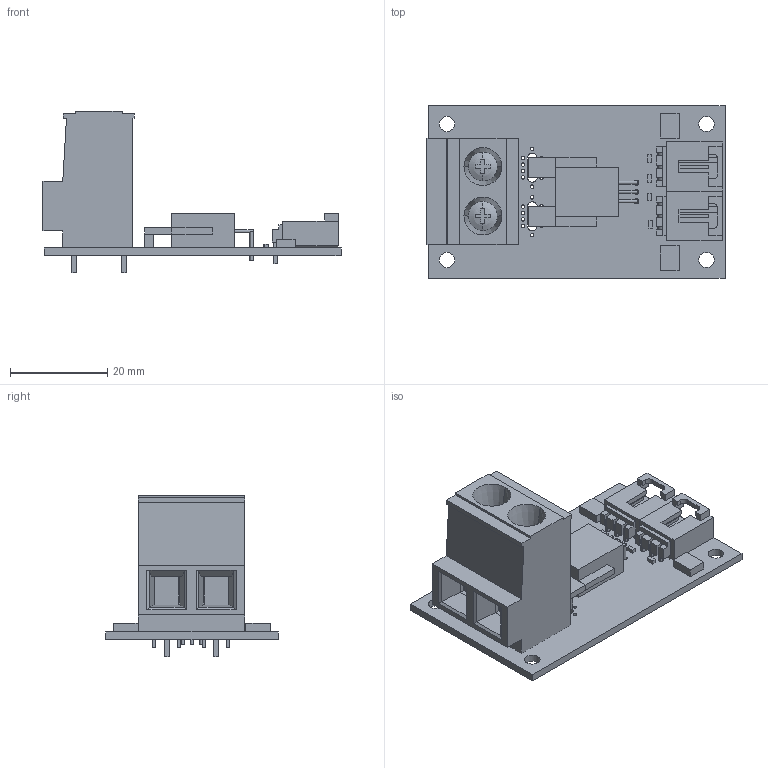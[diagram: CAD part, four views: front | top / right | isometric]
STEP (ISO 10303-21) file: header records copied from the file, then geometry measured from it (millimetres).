
FILE_DESCRIPTION(('Open CASCADE Model'),'2;1');
FILE_NAME('Open CASCADE Shape Model','2010-10-28T09:08:36',('Author'),( 'Open CASCADE'),'Open CASCADE STEP processor 6.2','Open CASCADE 6.2' ,'Unknown');
FILE_SCHEMA(('AUTOMOTIVE_DESIGN { 1 0 10303 214 1 1 1 1 }'));
Length unit declared in the file: millimetre
Products named in the file (34): PCB; Board; R2; 478788672; Extruded; J2; 705530002; Open CASCADE STEP translator 6.2 45.3.1.1; Open CASCADE STEP translator 6.2 45.3.1.2; J1; C2; C1; R1; U1; 845312672; U3; U2; 845314976; 845315616; 892608000; Cylinder; 892606544; 845319072; 845318944; J3; 399700102; Open CASCADE STEP translator 6.2 45.11.1.1; Open CASCADE STEP translator 6.2 45.11.1.2
Assembly tree (45 placements, depth 4):
  PCB
    Board
    R2
      478788672
        Extruded
    J2
      705530002
        Open CASCADE STEP translator 6.2 45.3.1.1
        Open CASCADE STEP translator 6.2 45.3.1.2
    J1
      705530002
        Open CASCADE STEP translator 6.2 45.3.1.1
        Open CASCADE STEP translator 6.2 45.3.1.2
    C2
      478788672
        Extruded
    C1
      478788672
        Extruded
    R1
      478788672
        Extruded
    U1
      845312672
        Extruded
    U3
      845312672
        Extruded
    U2
      845314976  x2
        Extruded
      845315616
        Extruded
      892608000  x3
        Cylinder
      892606544  x3
        Cylinder
      845319072  x2
        Extruded
      845318944  x2
        Extruded
    J3
      399700102
        Open CASCADE STEP translator 6.2 45.11.1.1
        Open CASCADE STEP translator 6.2 45.11.1.2
Bounding box: 61.26 x 35.56 x 33.27 mm (x, y, z)
Volume: 12386.9 mm3; surface area: 13435.9 mm2
Topology: 23 solids, 23 shells, 589 faces, 1563 edges, 1066 vertices
Faces by surface type: plane 494, cylinder 83, cone 8, sphere 4
Full cylindrical faces by diameter (mm): 0.635 x6, 0.711 x20, 0.965 x6, 1.067 x3, 2.184 x4, 3.175 x4
Entity records: 29999 total; most frequent: CARTESIAN_POINT 6574, DIRECTION 4245, LINE 2843, VECTOR 2843, ORIENTED_EDGE 2248, PCURVE 2248, DEFINITIONAL_REPRESENTATION 2248, EDGE_CURVE 1124
